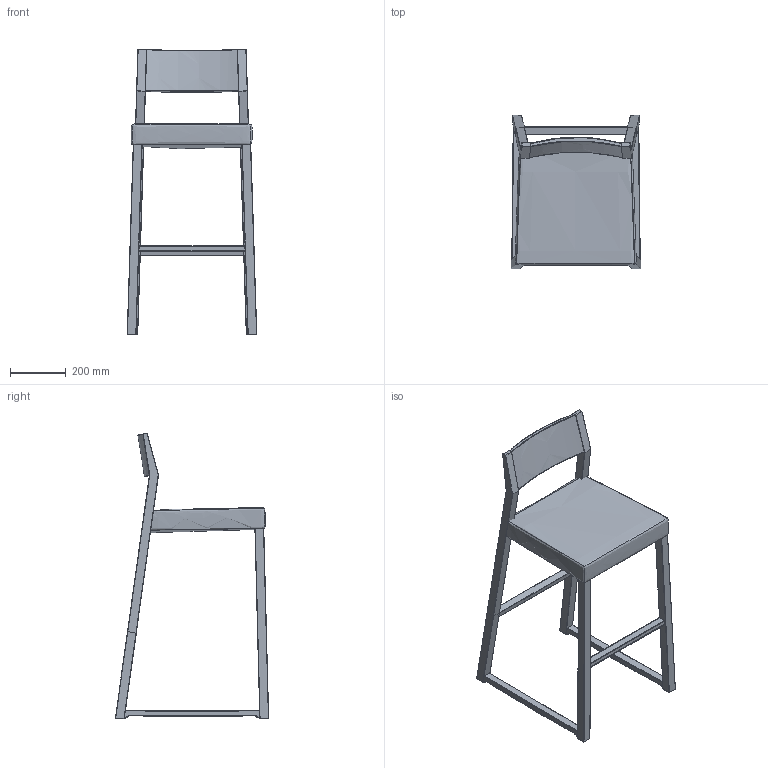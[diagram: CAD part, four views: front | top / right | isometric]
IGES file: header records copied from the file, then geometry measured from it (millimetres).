
Global section: file name: W:\Archivio Clienti\08\coll c0238 LINEA\p2502 Sgabello\Sgabello alto LINEA IGES.igs; native system: Rhinoceros ( Dec 12 2013 ); preprocessor: Trout Lake IGES 012 Dec 12 2013; date: 140210.080814; units: millimetre
Bounding box: 467.01 x 552.43 x 1027.86 mm (x, y, z)
Surface area: 1253688.6 mm2 (no closed solid volume)
Topology: 0 solids, 0 shells, 186 faces, 1646 edges, 1647 vertices
Faces by surface type: bspline 186
